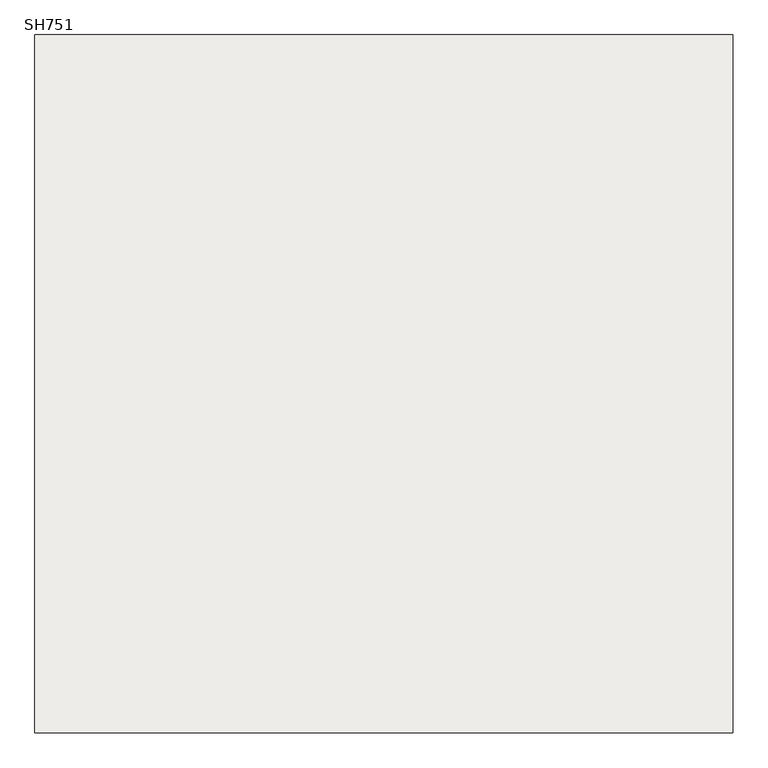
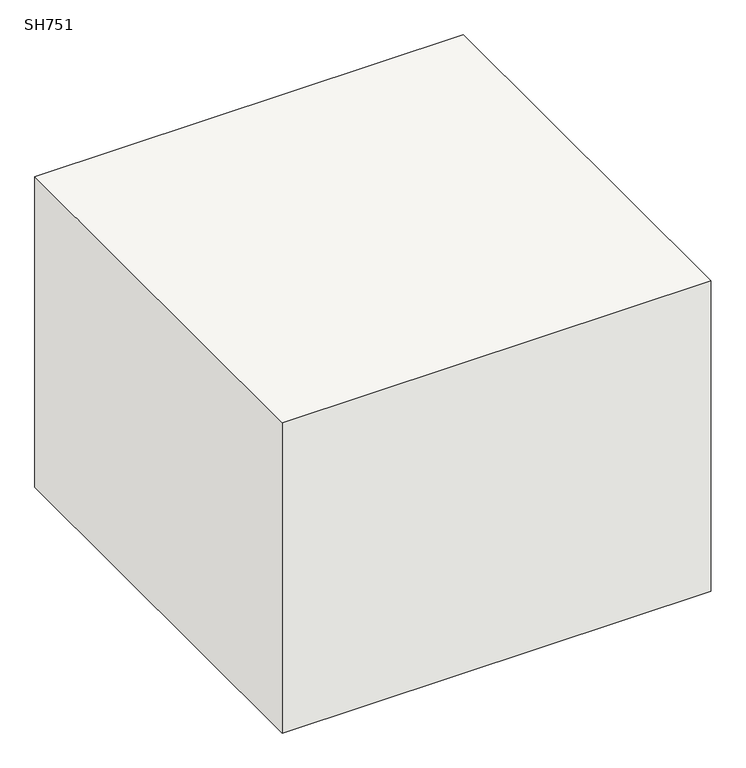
"""IFC4 building model written with IfcOpenShell, lengths in millimetres: slab geometry, 柱形_SH : SH751."""

from ifc_helpers import new_model, si_unit, frame, origin, place, context, project, spatial, polyline, outline, extrude, source, transform, mapped, element, save


def sh751_26a283a2(model_context):
    return source(origin(), model_context, "Body", "SweptSolid", [
        extrude(outline(polyline([(685.0, 685.0), (685.0, -685.0), (-685.0, -685.0), (-685.0, 685.0), (685.0, 685.0)])), frame((0.0, 0.0, -1050.0), z_axis=(0.0, 0.0, 1.0), x_axis=(1.0, 0.0, 0.0)), (0.0, 0.0, 1.0), 1050.0),
    ])


if __name__ == "__main__":
    model = new_model("IFC4")
    model_context = context("Model", 3, world=origin())
    ifc_project = project(units=[si_unit("LENGTHUNIT", "METRE", prefix="MILLI")], contexts=[model_context])
    site = spatial("IfcSite", under=ifc_project)
    building = spatial("IfcBuilding", under=site)
    placement = place(None, origin())
    sh751_shape = sh751_26a283a2(model_context)
    element("IfcSlab", 1, ObjectType="柱形_SH : SH751", at=placement, inside=building, context=model_context, shape_type="MappedRepresentation", body=[
        mapped(sh751_shape, transform((0.0, 0.0, 0.0), x_axis=(1.0, 0.0, 0.0), y_axis=(0.0, 1.0, 0.0), z_axis=(0.0, 0.0, 1.0))),
    ])
    save(model, "model.ifc")
